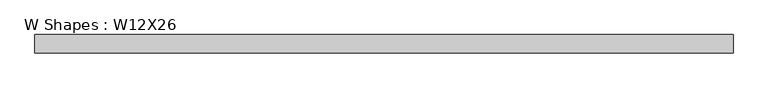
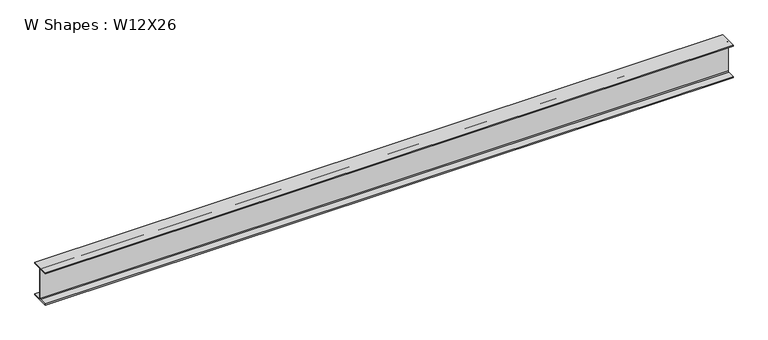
"""IFC4 building model written with IfcOpenShell, lengths in millimetres: beam geometry, W Shapes : W12X26."""

from ifc_helpers import new_model, si_unit, point, frame, frame_2d, origin, place, context, project, spatial, polyline, circle_curve, trimmed, segment, composite_curve, outline, extrude, source, transform, mapped, element, save


def w_shapes_w12x26_e6bebfd3(model_context):
    return source(origin(), model_context, "Body", "SweptSolid", [
        extrude(outline(composite_curve([segment(polyline([(82.423, -145.288), (82.423, -154.94), (-82.423, -154.94), (-82.423, -145.288), (-10.541, -145.288)]), True, "CONTINUOUS"), segment(trimmed(circle_curve(frame_2d((-10.541, -137.668)), 7.62), [point((-10.541, -145.288))], [point((-2.921, -137.668))], True, "CARTESIAN"), True, "CONTINUOUS"), segment(polyline([(-2.921, -137.668), (-2.921, 137.668)]), True, "CONTINUOUS"), segment(trimmed(circle_curve(frame_2d((-10.541, 137.668)), 7.62), [point((-2.921, 137.668))], [point((-10.541, 145.288))], True, "CARTESIAN"), True, "CONTINUOUS"), segment(polyline([(-10.541, 145.288), (-82.423, 145.288), (-82.423, 154.94), (82.423, 154.94), (82.423, 145.288), (10.541, 145.288)]), True, "CONTINUOUS"), segment(trimmed(circle_curve(frame_2d((10.541, 137.668)), 7.62), [point((10.541, 145.288))], [point((2.921, 137.668))], True, "CARTESIAN"), True, "CONTINUOUS"), segment(polyline([(2.921, 137.668), (2.921, -137.668)]), True, "CONTINUOUS"), segment(trimmed(circle_curve(frame_2d((10.541, -137.668)), 7.62), [point((2.921, -137.668))], [point((10.541, -145.288))], True, "CARTESIAN"), True, "CONTINUOUS"), segment(polyline([(10.541, -145.288), (82.423, -145.288)]), True, "CONTINUOUS")], self_intersect=False)), frame((-3098.4010255, 0.0, 0.0), z_axis=(1.0, 0.0, 0.0), x_axis=(0.0, 1.0, 0.0)), (0.0, 0.0, 1.0), 6216.7127373),
    ])


if __name__ == "__main__":
    model = new_model("IFC4")
    model_context = context("Model", 3, world=origin())
    ifc_project = project(units=[si_unit("LENGTHUNIT", "METRE", prefix="MILLI")], contexts=[model_context])
    site = spatial("IfcSite", under=ifc_project)
    building = spatial("IfcBuilding", under=site)
    placement = place(None, origin())
    w_shapes_w12x26_shape = w_shapes_w12x26_e6bebfd3(model_context)
    element("IfcBeam", 1, ObjectType="W Shapes : W12X26", at=placement, inside=building, context=model_context, shape_type="MappedRepresentation", body=[
        mapped(w_shapes_w12x26_shape, transform((0.0, 0.0, 0.0), x_axis=(1.0, 0.0, 0.0), y_axis=(0.0, 1.0, 0.0), z_axis=(0.0, 0.0, 1.0))),
    ])
    save(model, "model.ifc")
